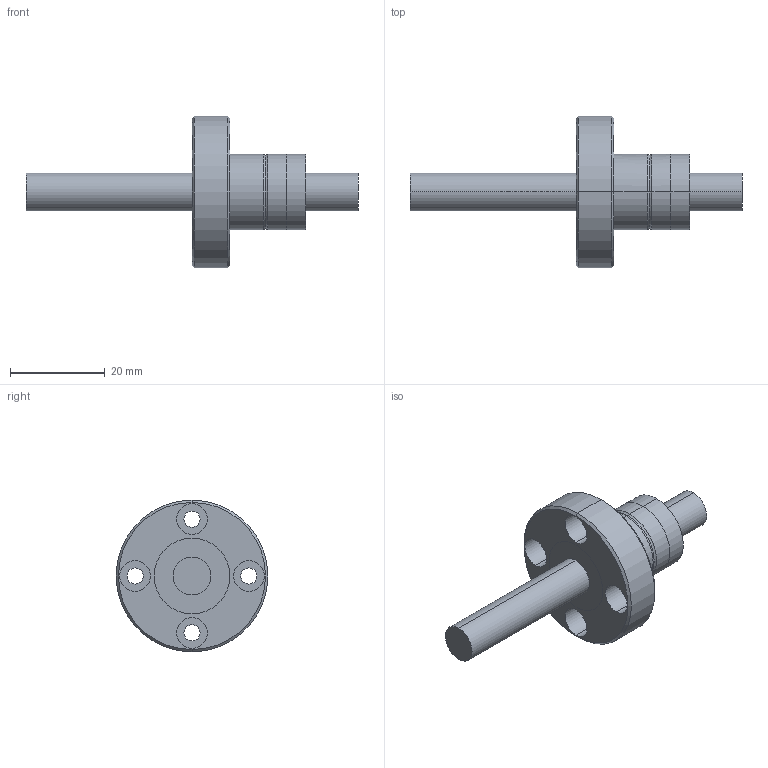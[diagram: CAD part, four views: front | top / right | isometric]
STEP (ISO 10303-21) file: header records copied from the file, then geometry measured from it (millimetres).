
FILE_DESCRIPTION (( 'STEP AP203' ), '1' );
FILE_NAME ('KLF008T3.STEP', '2023-08-17T07:21:08', ( '' ), ( '' ), 'SwSTEP 2.0', 'SolidWorks 2022', '' );
FILE_SCHEMA (( 'CONFIG_CONTROL_DESIGN' ));
Length unit declared in the file: millimetre
Products named in the file (5): KLF008T3; 主体^KLF008T3; 塑胶2^KLF008T3; 零件6^KLF008T3; 塑胶1^KLF008T3
Assembly tree (4 placements, depth 2):
  KLF008T3
    主体^KLF008T3
    塑胶1^KLF008T3
    塑胶2^KLF008T3
    零件6^KLF008T3
Bounding box: 70 x 32 x 32 mm (x, y, z)
Volume: 11199.9 mm3; surface area: 6989.3 mm2
Topology: 4 solids, 4 shells, 62 faces, 135 edges, 86 vertices
Faces by surface type: cylinder 38, plane 14, torus 6, cone 4
Entity records: 2331 total; most frequent: CARTESIAN_POINT 354, DIRECTION 350, ORIENTED_EDGE 270, AXIS2_PLACEMENT_3D 154, EDGE_CURVE 135, VERTEX_POINT 86, CIRCLE 85, EDGE_LOOP 83
